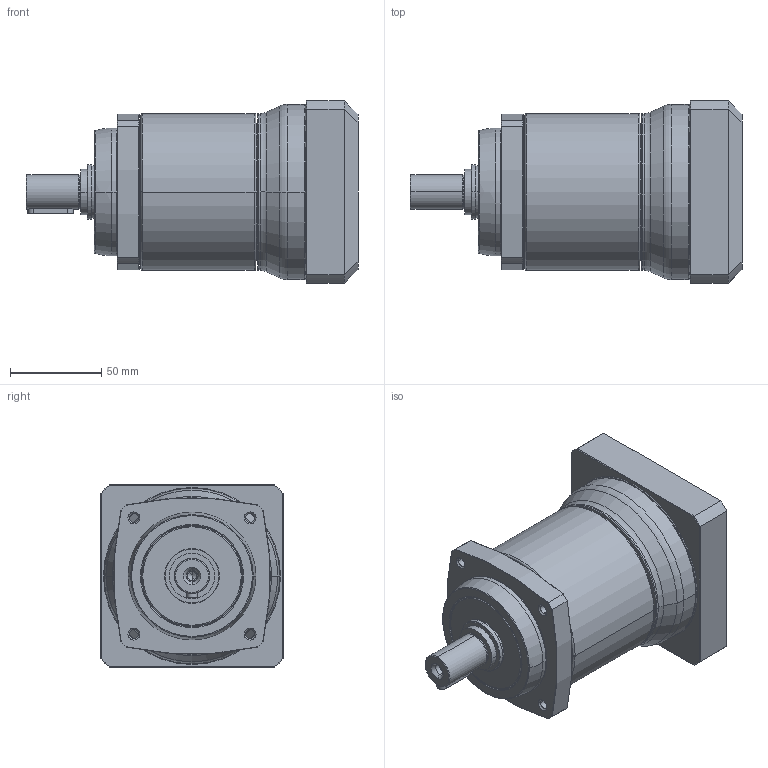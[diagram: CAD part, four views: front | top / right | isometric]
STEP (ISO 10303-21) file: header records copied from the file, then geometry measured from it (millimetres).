
FILE_DESCRIPTION((''),'2;1');
FILE_NAME('PS2-C_2ST_24-P0411500101_ASM','2016-05-24T',('d01943'),(''),'PRO/ENGINEER BY PARAMETRIC TECHNOLOGY CORPORATION, 2008410','PRO/ENGINEER BY PARAMETRIC TECHNOLOGY CORPORATION, 2008410','');
FILE_SCHEMA(('CONFIG_CONTROL_DESIGN'));
Length unit declared in the file: millimetre
Products named in the file (9): P1328310001; P0251300001; P1324300201; P0350301401; P0941302001; P0503500008; P0411500101; P1702500001; PS2-C_2ST_24-P0411500101_ASM
Assembly tree (8 placements, depth 2):
  PS2-C_2ST_24-P0411500101_ASM
    P1328310001
    P0251300001
    P1324300201
    P0350301401
    P0941302001
    P0503500008
    P0411500101
    P1702500001
Bounding box: 182 x 100 x 100 mm (x, y, z)
Volume: 632023.6 mm3; surface area: 156401.7 mm2
Topology: 8 solids, 8 shells, 485 faces, 1058 edges, 614 vertices
Faces by surface type: cone 152, cylinder 143, torus 92, plane 80, bspline 18
Entity records: 17995 total; most frequent: CARTESIAN_POINT 7063, DIRECTION 2494, ORIENTED_EDGE 2076, AXIS2_PLACEMENT_3D 1077, EDGE_CURVE 1038, VERTEX_POINT 614, CIRCLE 593, EDGE_LOOP 554
